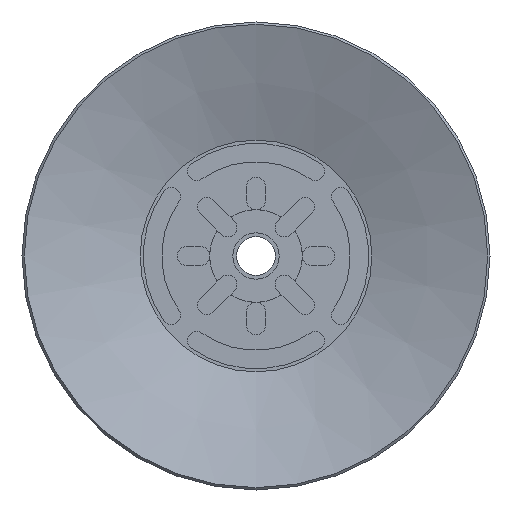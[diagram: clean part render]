
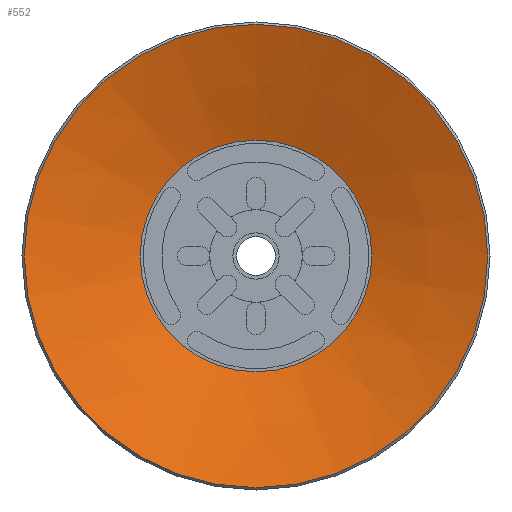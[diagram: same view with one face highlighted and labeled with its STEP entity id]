
A CAD part, front view. The second image highlights one B-rep face of the part: STEP entity #552.
In plain terms, the highlighted conical face has half-angle 70.201 degrees and reference radius 7.5 mm.
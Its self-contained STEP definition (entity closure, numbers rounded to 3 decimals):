
#552=ADVANCED_FACE('',(#897,#898),#899,.F.);
#897=FACE_BOUND('',#1405,.T.);
#898=FACE_OUTER_BOUND('',#1406,.T.);
#899=CONICAL_SURFACE('',#1407,7.5,1.225);
#1405=EDGE_LOOP('',(#2593));
#1406=EDGE_LOOP('',(#2594));
#1407=AXIS2_PLACEMENT_3D('',#2595,#2596,#2597);
#2593=ORIENTED_EDGE('',*,*,#3695,.F.);
#2594=ORIENTED_EDGE('',*,*,#3696,.T.);
#2595=CARTESIAN_POINT('',(0.0,0.0,2.7));
#2596=DIRECTION('',(0.0,0.,-1.0));
#2597=DIRECTION('',(0.0,1.0,0.));
#3695=EDGE_CURVE('',#4310,#4310,#4311,.T.);
#3696=EDGE_CURVE('',#4312,#4312,#4313,.T.);
#4310=VERTEX_POINT('',#5513);
#4311=CIRCLE('',#5514,7.5);
#4312=VERTEX_POINT('',#5515);
#4313=CIRCLE('',#5516,15.0);
#5513=CARTESIAN_POINT('',(0.0,7.5,2.7));
#5514=AXIS2_PLACEMENT_3D('',#6663,#6664,#6665);
#5515=CARTESIAN_POINT('',(0.0,15.0,0.));
#5516=AXIS2_PLACEMENT_3D('',#6666,#6667,#6668);
#6663=CARTESIAN_POINT('',(0.0,0.0,2.7));
#6664=DIRECTION('',(0.0,0.,-1.0));
#6665=DIRECTION('',(0.0,1.0,0.));
#6666=CARTESIAN_POINT('',(0.0,0.0,0.0));
#6667=DIRECTION('',(0.0,0.,-1.0));
#6668=DIRECTION('',(0.0,1.0,0.));
